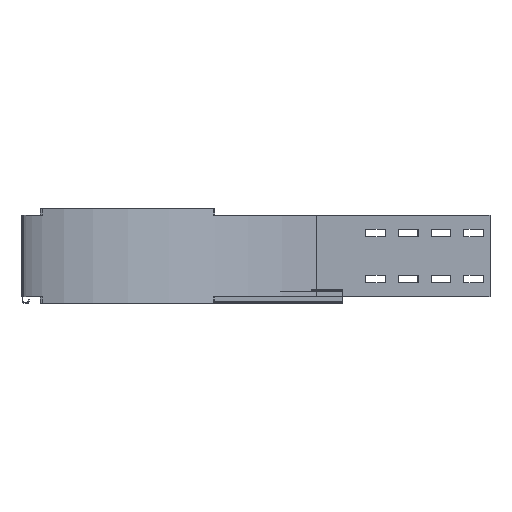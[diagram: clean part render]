
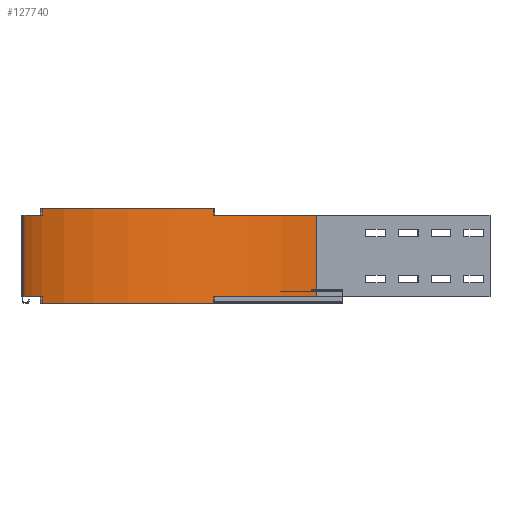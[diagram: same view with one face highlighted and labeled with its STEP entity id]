
A CAD part, left-side view. The second image highlights one B-rep face of the part: STEP entity #127740.
In plain terms, the highlighted cylindrical face has radius 447 mm (diameter 894 mm), a partial arc.
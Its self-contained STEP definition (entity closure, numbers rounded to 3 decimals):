
#105170=CARTESIAN_POINT('',(418.993,-294.263,0.));
#105180=VERTEX_POINT('',#105170);
#105210=CARTESIAN_POINT('',(0.,-450.,0.));
#105220=DIRECTION('',(0.,0.,1.));
#105230=DIRECTION('',(0.937,0.348,0.));
#105240=AXIS2_PLACEMENT_3D('',#105210,#105220,#105230);
#105250=CIRCLE('',#105240,447.);
#105260=CARTESIAN_POINT('',(155.737,-31.007,0.));
#105270=VERTEX_POINT('',#105260);
#105280=EDGE_CURVE('',#105180,#105270,#105250,.T.);
#107250=CARTESIAN_POINT('',(447.,-450.,-10.));
#107260=VERTEX_POINT('',#107250);
#107310=CARTESIAN_POINT('',(0.,-450.,-10.));
#107320=DIRECTION('',(0.,0.,-1.));
#107330=DIRECTION('',(0.937,0.348,0.));
#107340=AXIS2_PLACEMENT_3D('',#107310,#107320,#107330);
#107350=CIRCLE('',#107340,447.);
#107360=CARTESIAN_POINT('',(418.993,-294.263,-10.));
#107370=VERTEX_POINT('',#107360);
#107380=EDGE_CURVE('',#107370,#107260,#107350,.T.);
#107790=CARTESIAN_POINT('',(0.,-450.,-145.));
#107800=DIRECTION('',(0.,0.,1.));
#107810=DIRECTION('',(0.937,0.348,0.));
#107820=AXIS2_PLACEMENT_3D('',#107790,#107800,#107810);
#107830=CIRCLE('',#107820,447.);
#107840=CARTESIAN_POINT('',(418.993,-294.263,-145.));
#107850=VERTEX_POINT('',#107840);
#107860=CARTESIAN_POINT('',(155.737,-31.007,-145.));
#107870=VERTEX_POINT('',#107860);
#107880=EDGE_CURVE('',#107850,#107870,#107830,.T.);
#108210=CARTESIAN_POINT('',(0.,-450.,-135.));
#108220=DIRECTION('',(0.,0.,1.));
#108230=DIRECTION('',(0.348,0.937,0.));
#108240=AXIS2_PLACEMENT_3D('',#108210,#108220,#108230);
#108250=CIRCLE('',#108240,447.);
#108260=CARTESIAN_POINT('',(155.737,-31.007,-135.));
#108270=VERTEX_POINT('',#108260);
#108280=CARTESIAN_POINT('',(0.,-3.,-135.));
#108290=VERTEX_POINT('',#108280);
#108300=EDGE_CURVE('',#108270,#108290,#108250,.T.);
#117560=CARTESIAN_POINT('',(0.,-3.,0.));
#117570=DIRECTION('',(0.,0.,-1.));
#117580=VECTOR('',#117570,1.);
#117590=LINE('',#117560,#117580);
#117600=CARTESIAN_POINT('',(0.,-3.,-10.));
#117610=VERTEX_POINT('',#117600);
#117620=EDGE_CURVE('',#117610,#108290,#117590,.T.);
#120550=CARTESIAN_POINT('',(447.,-450.,-135.));
#120560=VERTEX_POINT('',#120550);
#120590=CARTESIAN_POINT('',(447.,-450.,0.));
#120600=DIRECTION('',(0.,0.,1.));
#120610=VECTOR('',#120600,1.);
#120620=LINE('',#120590,#120610);
#120630=EDGE_CURVE('',#120560,#107260,#120620,.T.);
#125800=CARTESIAN_POINT('',(418.993,-294.263,0.));
#125810=DIRECTION('',(0.,0.,-1.));
#125820=VECTOR('',#125810,1.);
#125830=LINE('',#125800,#125820);
#125840=EDGE_CURVE('',#105180,#107370,#125830,.T.);
#125970=CARTESIAN_POINT('',(155.737,-31.007,-145.));
#125980=DIRECTION('',(0.,0.,1.));
#125990=VECTOR('',#125980,1.);
#126000=LINE('',#125970,#125990);
#126010=EDGE_CURVE('',#107870,#108270,#126000,.T.);
#126150=CARTESIAN_POINT('',(155.737,-31.007,-10.));
#126160=VERTEX_POINT('',#126150);
#126210=CARTESIAN_POINT('',(155.737,-31.007,-10.));
#126220=DIRECTION('',(0.,0.,1.));
#126230=VECTOR('',#126220,1.);
#126240=LINE('',#126210,#126230);
#126250=EDGE_CURVE('',#126160,#105270,#126240,.T.);
#126410=CARTESIAN_POINT('',(418.993,-294.263,-135.));
#126420=VERTEX_POINT('',#126410);
#126450=CARTESIAN_POINT('',(0.,-450.,-135.));
#126460=DIRECTION('',(0.,0.,1.));
#126470=DIRECTION('',(1.,0.,0.));
#126480=AXIS2_PLACEMENT_3D('',#126450,#126460,#126470);
#126490=CIRCLE('',#126480,447.);
#126500=EDGE_CURVE('',#120560,#126420,#126490,.T.);
#127440=CARTESIAN_POINT('',(0.,-450.,-10.));
#127450=DIRECTION('',(0.,0.,1.));
#127460=DIRECTION('',(1.,0.,0.));
#127470=AXIS2_PLACEMENT_3D('',#127440,#127450,#127460);
#127480=CYLINDRICAL_SURFACE('',#127470,447.);
#127490=ORIENTED_EDGE('',*,*,#108300,.F.);
#127500=ORIENTED_EDGE('',*,*,#117620,.T.);
#127510=CARTESIAN_POINT('',(0.,-450.,-10.));
#127520=DIRECTION('',(0.,0.,-1.));
#127530=DIRECTION('',(0.,1.,0.));
#127540=AXIS2_PLACEMENT_3D('',#127510,#127520,#127530);
#127550=CIRCLE('',#127540,447.);
#127560=EDGE_CURVE('',#117610,#126160,#127550,.T.);
#127570=ORIENTED_EDGE('',*,*,#127560,.F.);
#127580=ORIENTED_EDGE('',*,*,#126250,.F.);
#127590=ORIENTED_EDGE('',*,*,#105280,.T.);
#127600=ORIENTED_EDGE('',*,*,#125840,.F.);
#127610=ORIENTED_EDGE('',*,*,#107380,.F.);
#127620=ORIENTED_EDGE('',*,*,#120630,.T.);
#127630=ORIENTED_EDGE('',*,*,#126500,.F.);
#127640=CARTESIAN_POINT('',(418.993,-294.263,-135.));
#127650=DIRECTION('',(0.,0.,-1.));
#127660=VECTOR('',#127650,1.);
#127670=LINE('',#127640,#127660);
#127680=EDGE_CURVE('',#126420,#107850,#127670,.T.);
#127690=ORIENTED_EDGE('',*,*,#127680,.F.);
#127700=ORIENTED_EDGE('',*,*,#107880,.F.);
#127710=ORIENTED_EDGE('',*,*,#126010,.F.);
#127720=EDGE_LOOP('',(#127710,#127700,#127690,#127630,#127620,#127610,
#127600,#127590,#127580,#127570,#127500,#127490));
#127730=FACE_OUTER_BOUND('',#127720,.T.);
#127740=ADVANCED_FACE('',(#127730),#127480,.F.);
